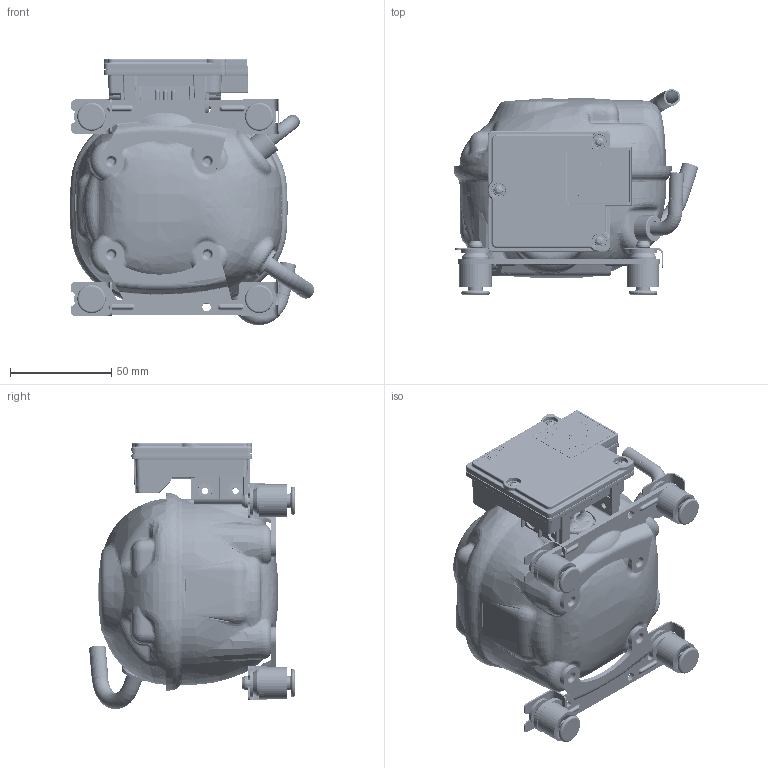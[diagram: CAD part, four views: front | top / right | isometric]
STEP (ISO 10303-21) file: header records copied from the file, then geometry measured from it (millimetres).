
FILE_DESCRIPTION((''),'2;1');
FILE_NAME('109Z0700_BDN-EV_APHA_ASM','2026-08-04T12:03:43',('dehc5875'),(''),'CREO PARAMETRIC BY PTC INC, 2022162','CREO PARAMETRIC BY PTC INC, 2022162','');
FILE_SCHEMA(('CONFIG_CONTROL_DESIGN'));
Products named in the file (34): 109B0401_1_1; 109B0501_1_1; 109B0502_1_1; 117-3636_BODY_1_1; 117-3636_PIN_1_1; 117-3636_GLASS_1_1; 117-3636_ASM_1_ASM_1_ASM; 109B0750_1_1; 109B0842_1_1; 109B0803_BENT_5_1_1; 109B0853_BNT_5_ASM_1_ASM_1_ASM; 109B0802_BENT_3_1_1; 109B0841_1_1; 109B0852_BENT_3_ASM_1_ASM_1_ASM; 109B0651_1_1; 109B0101_BENT_5_ASM_1_ASM_1_ASM; 109B0672_SPRING_HOLDER_BDN_1_1; 109B0301_1_1; 109B0801_BENT1_1_1; 109B0851_BENT_1_ASM_1_ASM_1_ASM; 109B0250_BENT_1_ASM_1_ASM_1_ASM; 109Z0700_BDN-EV_ASM_1_ASM_1_ASM; 118-3671_RUBBER_GROMMET_AF5_1; 118-3589_1; ISO-7089_7_1; 118-3585_1; 118-1959_ASM_1_ASM; 109Z0700_BDN-EV_ASM_ASM_1_ASM; 105B4612; 105B4611; 105A0322; 640N2122; 101N2830_ASM; 109Z0700_BDN-EV_APHA_ASM
Assembly tree (49 placements, depth 6):
  109Z0700_BDN-EV_APHA_ASM
    109Z0700_BDN-EV_ASM_ASM_1_ASM
      109Z0700_BDN-EV_ASM_1_ASM_1_ASM
        109B0101_BENT_5_ASM_1_ASM_1_ASM
          109B0401_1_1
          109B0501_1_1
          109B0502_1_1
          117-3636_ASM_1_ASM_1_ASM
            117-3636_BODY_1_1
            117-3636_PIN_1_1  x3
            117-3636_GLASS_1_1  x3
          109B0750_1_1
          109B0853_BNT_5_ASM_1_ASM_1_ASM
            109B0842_1_1
            109B0803_BENT_5_1_1
          109B0852_BENT_3_ASM_1_ASM_1_ASM
            109B0802_BENT_3_1_1
            109B0841_1_1
          109B0651_1_1  x4
        109B0672_SPRING_HOLDER_BDN_1_1  x4
        109B0250_BENT_1_ASM_1_ASM_1_ASM
          109B0301_1_1
          109B0851_BENT_1_ASM_1_ASM_1_ASM
            109B0801_BENT1_1_1
            109B0841_1_1
      118-1959_ASM_1_ASM  x4
        118-3671_RUBBER_GROMMET_AF5_1
        118-3589_1
        ISO-7089_7_1
        118-3585_1
    101N2830_ASM
      105B4612
      105B4611
      105A0322
      640N2122  x3
Bounding box: 120.68 x 101.63 x 131.45 mm (x, y, z)
Volume: 139777.5 mm3; surface area: 142396.5 mm2
Topology: 48 solids, 48 shells, 9874 faces, 25002 edges, 15521 vertices
Faces by surface type: plane 2783, bspline 2264, cylinder 1750, extrusion 1543, torus 828, cone 501, sphere 189, revolution 16
Entity records: 434957 total; most frequent: CARTESIAN_POINT 241765, ORIENTED_EDGE 44684, DIRECTION 31271, EDGE_CURVE 22342, VERTEX_POINT 13839, VECTOR 11521, LINE 9978, AXIS2_PLACEMENT_3D 9871
